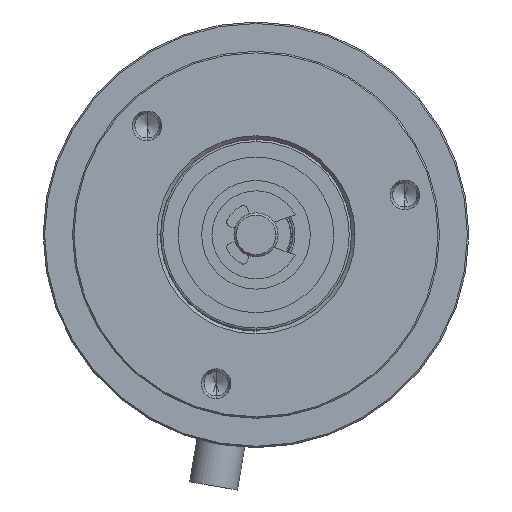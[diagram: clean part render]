
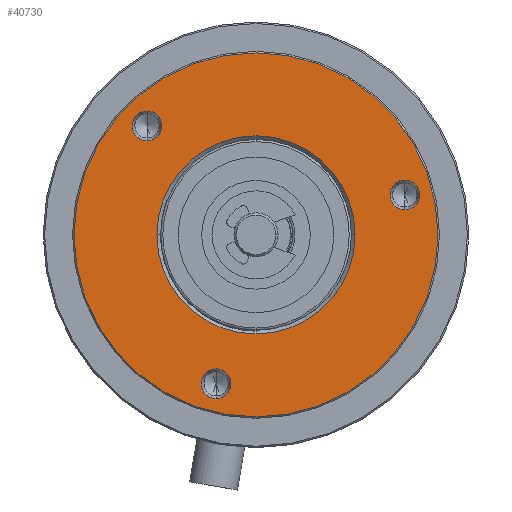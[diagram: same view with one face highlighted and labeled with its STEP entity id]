
A CAD part, left-side view. The second image highlights one B-rep face of the part: STEP entity #40730.
In plain terms, the highlighted planar face has unit normal (-1, 0, 0).
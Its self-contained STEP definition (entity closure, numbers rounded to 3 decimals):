
#2194 = FACE_BOUND ( 'NONE', #40313, .T. ) ;
#2865 = AXIS2_PLACEMENT_3D ( 'NONE', #21999, #63004, #27878 ) ;
#3123 = CARTESIAN_POINT ( 'NONE',  ( 12.14, 21.969, -3.276 ) ) ;
#3552 = ORIENTED_EDGE ( 'NONE', *, *, #35548, .F. ) ;
#4406 = CARTESIAN_POINT ( 'NONE',  ( 12.14, -3.75, 26.494 ) ) ;
#5333 = EDGE_CURVE ( 'NONE', #33395, #57175, #45940, .T. ) ;
#6195 = EDGE_LOOP ( 'NONE', ( #45665, #56753 ) ) ;
#6889 = CIRCLE ( 'NONE', #15990, 24.8 ) ;
#7798 = EDGE_CURVE ( 'NONE', #14679, #24589, #70991, .T. ) ;
#9353 = DIRECTION ( 'NONE',  ( 1., 0., 0. ) ) ;
#11961 = EDGE_CURVE ( 'NONE', #59968, #21811, #70394, .T. ) ;
#13082 = DIRECTION ( 'NONE',  ( -1., 0., 0. ) ) ;
#13890 = AXIS2_PLACEMENT_3D ( 'NONE', #26739, #67758, #32641 ) ;
#14679 = VERTEX_POINT ( 'NONE', #3123 ) ;
#15990 = AXIS2_PLACEMENT_3D ( 'NONE', #51096, #16013, #56980 ) ;
#16013 = DIRECTION ( 'NONE',  ( -1., 0., 0. ) ) ;
#18042 = DIRECTION ( 'NONE',  ( -1., 0., 0. ) ) ;
#18263 = DIRECTION ( 'NONE',  ( -1., 0., 0. ) ) ;
#18362 = ORIENTED_EDGE ( 'NONE', *, *, #5333, .F. ) ;
#19642 = DIRECTION ( 'NONE',  ( -1., 0., 0. ) ) ;
#19833 = EDGE_CURVE ( 'NONE', #60860, #70670, #6889, .T. ) ;
#20605 = ORIENTED_EDGE ( 'NONE', *, *, #19833, .T. ) ;
#21325 = CARTESIAN_POINT ( 'NONE',  ( 12.14, 31.383, 31.858 ) ) ;
#21811 = VERTEX_POINT ( 'NONE', #24697 ) ;
#21999 = CARTESIAN_POINT ( 'NONE',  ( 12.14, -3.75, 24.469 ) ) ;
#22046 = AXIS2_PLACEMENT_3D ( 'NONE', #48194, #13082, #54081 ) ;
#24589 = VERTEX_POINT ( 'NONE', #75418 ) ;
#24697 = CARTESIAN_POINT ( 'NONE',  ( 12.14, 3.034, 19.034 ) ) ;
#25373 = CIRCLE ( 'NONE', #22046, 2.025 ) ;
#26548 = AXIS2_PLACEMENT_3D ( 'NONE', #65531, #30426, #71439 ) ;
#26739 = CARTESIAN_POINT ( 'NONE',  ( 12.14, 16.534, 19.034 ) ) ;
#27878 = DIRECTION ( 'NONE',  ( 0., 0., 1. ) ) ;
#28358 = EDGE_CURVE ( 'NONE', #70670, #60860, #53695, .T. ) ;
#28393 = CARTESIAN_POINT ( 'NONE',  ( 12.14, -3.75, 22.444 ) ) ;
#29305 = CIRCLE ( 'NONE', #67075, 2.025 ) ;
#29953 = CARTESIAN_POINT ( 'NONE',  ( 12.14, -8.266, 19.034 ) ) ;
#30426 = DIRECTION ( 'NONE',  ( 1., 0., 0. ) ) ;
#30606 = CARTESIAN_POINT ( 'NONE',  ( 12.14, 21.969, -1.251 ) ) ;
#31099 = AXIS2_PLACEMENT_3D ( 'NONE', #53119, #18042, #59030 ) ;
#31645 = EDGE_CURVE ( 'NONE', #61456, #39666, #70303, .T. ) ;
#32472 = CARTESIAN_POINT ( 'NONE',  ( 12.14, 30.034, 19.034 ) ) ;
#32641 = DIRECTION ( 'NONE',  ( 0., -1., 0. ) ) ;
#32816 = EDGE_LOOP ( 'NONE', ( #20605, #66566 ) ) ;
#33332 = FACE_BOUND ( 'NONE', #34348, .T. ) ;
#33395 = VERTEX_POINT ( 'NONE', #21325 ) ;
#34348 = EDGE_LOOP ( 'NONE', ( #3552, #18362 ) ) ;
#35548 = EDGE_CURVE ( 'NONE', #57175, #33395, #29305, .T. ) ;
#36508 = DIRECTION ( 'NONE',  ( 0., 0., 1. ) ) ;
#37408 = CARTESIAN_POINT ( 'NONE',  ( 12.14, 41.334, 19.034 ) ) ;
#37995 = AXIS2_PLACEMENT_3D ( 'NONE', #30606, #71628, #36508 ) ;
#38145 = EDGE_CURVE ( 'NONE', #21811, #59968, #59492, .T. ) ;
#38389 = DIRECTION ( 'NONE',  ( 0., -1., 0. ) ) ;
#39666 = VERTEX_POINT ( 'NONE', #28393 ) ;
#40313 = EDGE_LOOP ( 'NONE', ( #43223, #68038 ) ) ;
#40730 = ADVANCED_FACE ( 'NONE', ( #64552, #33332, #2194, #62705, #47123 ), #67065, .T. ) ;
#43223 = ORIENTED_EDGE ( 'NONE', *, *, #31645, .F. ) ;
#44491 = CARTESIAN_POINT ( 'NONE',  ( 12.14, 16.534, 19.034 ) ) ;
#45665 = ORIENTED_EDGE ( 'NONE', *, *, #38145, .T. ) ;
#45940 = CIRCLE ( 'NONE', #62299, 2.025 ) ;
#47123 = FACE_BOUND ( 'NONE', #6195, .T. ) ;
#48194 = CARTESIAN_POINT ( 'NONE',  ( 12.14, -3.75, 24.469 ) ) ;
#48879 = AXIS2_PLACEMENT_3D ( 'NONE', #32472, #73493, #38389 ) ;
#49183 = EDGE_LOOP ( 'NONE', ( #72200, #49329 ) ) ;
#49329 = ORIENTED_EDGE ( 'NONE', *, *, #7798, .F. ) ;
#50365 = DIRECTION ( 'NONE',  ( 0., 1., 0. ) ) ;
#51096 = CARTESIAN_POINT ( 'NONE',  ( 12.14, 16.534, 19.034 ) ) ;
#51261 = EDGE_CURVE ( 'NONE', #24589, #14679, #56193, .T. ) ;
#53119 = CARTESIAN_POINT ( 'NONE',  ( 12.14, 21.969, -1.251 ) ) ;
#53350 = CARTESIAN_POINT ( 'NONE',  ( 12.14, 31.383, 33.883 ) ) ;
#53695 = CIRCLE ( 'NONE', #13890, 24.8 ) ;
#54081 = DIRECTION ( 'NONE',  ( 0., 0., 1. ) ) ;
#54763 = CARTESIAN_POINT ( 'NONE',  ( 12.14, 31.383, 33.883 ) ) ;
#56193 = CIRCLE ( 'NONE', #37995, 2.025 ) ;
#56753 = ORIENTED_EDGE ( 'NONE', *, *, #11961, .T. ) ;
#56980 = DIRECTION ( 'NONE',  ( 0., -1., 0. ) ) ;
#57175 = VERTEX_POINT ( 'NONE', #73708 ) ;
#57929 = AXIS2_PLACEMENT_3D ( 'NONE', #44491, #9353, #50365 ) ;
#59030 = DIRECTION ( 'NONE',  ( 0., 0., 1. ) ) ;
#59270 = DIRECTION ( 'NONE',  ( 0., 0., 1. ) ) ;
#59359 = EDGE_CURVE ( 'NONE', #39666, #61456, #25373, .T. ) ;
#59492 = CIRCLE ( 'NONE', #26548, 13.5 ) ;
#59968 = VERTEX_POINT ( 'NONE', #60419 ) ;
#60419 = CARTESIAN_POINT ( 'NONE',  ( 12.14, 30.034, 19.034 ) ) ;
#60670 = DIRECTION ( 'NONE',  ( 0., 0., 1. ) ) ;
#60860 = VERTEX_POINT ( 'NONE', #37408 ) ;
#61456 = VERTEX_POINT ( 'NONE', #4406 ) ;
#62299 = AXIS2_PLACEMENT_3D ( 'NONE', #53350, #18263, #59270 ) ;
#62705 = FACE_OUTER_BOUND ( 'NONE', #32816, .T. ) ;
#63004 = DIRECTION ( 'NONE',  ( -1., 0., 0. ) ) ;
#64552 = FACE_BOUND ( 'NONE', #49183, .T. ) ;
#65531 = CARTESIAN_POINT ( 'NONE',  ( 12.14, 16.534, 19.034 ) ) ;
#66566 = ORIENTED_EDGE ( 'NONE', *, *, #28358, .T. ) ;
#67065 = PLANE ( 'NONE',  #48879 ) ;
#67075 = AXIS2_PLACEMENT_3D ( 'NONE', #54763, #19642, #60670 ) ;
#67758 = DIRECTION ( 'NONE',  ( -1., 0., 0. ) ) ;
#68038 = ORIENTED_EDGE ( 'NONE', *, *, #59359, .F. ) ;
#70303 = CIRCLE ( 'NONE', #2865, 2.025 ) ;
#70394 = CIRCLE ( 'NONE', #57929, 13.5 ) ;
#70670 = VERTEX_POINT ( 'NONE', #29953 ) ;
#70991 = CIRCLE ( 'NONE', #31099, 2.025 ) ;
#71439 = DIRECTION ( 'NONE',  ( 0., 1., 0. ) ) ;
#71628 = DIRECTION ( 'NONE',  ( -1., 0., 0. ) ) ;
#72200 = ORIENTED_EDGE ( 'NONE', *, *, #51261, .F. ) ;
#73493 = DIRECTION ( 'NONE',  ( -1., 0., 0. ) ) ;
#73708 = CARTESIAN_POINT ( 'NONE',  ( 12.14, 31.383, 35.908 ) ) ;
#75418 = CARTESIAN_POINT ( 'NONE',  ( 12.14, 21.969, 0.774 ) ) ;
